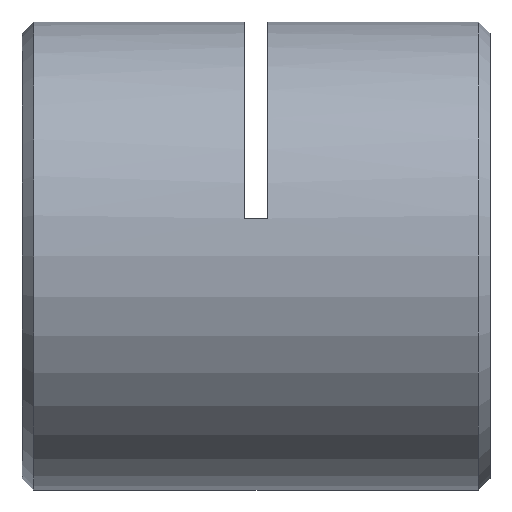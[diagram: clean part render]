
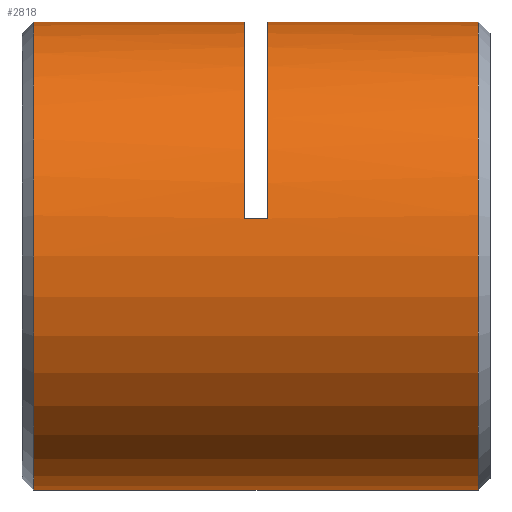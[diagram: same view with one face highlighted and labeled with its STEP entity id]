
A CAD part, left-side view. The second image highlights one B-rep face of the part: STEP entity #2818.
In plain terms, the highlighted cylindrical face has radius 8 mm (diameter 16 mm), a partial arc.
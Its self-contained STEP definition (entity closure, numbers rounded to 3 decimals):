
#15 = LINE ( 'NONE', #3690, #2148 ) ;
#53 = DIRECTION ( 'NONE',  ( 0., 1., 0. ) ) ;
#59 = FACE_OUTER_BOUND ( 'NONE', #3388, .T. ) ;
#77 = ORIENTED_EDGE ( 'NONE', *, *, #2141, .F. ) ;
#161 = DIRECTION ( 'NONE',  ( 0., 1., 0. ) ) ;
#178 = VERTEX_POINT ( 'NONE', #1547 ) ;
#325 = AXIS2_PLACEMENT_3D ( 'NONE', #1409, #161, #3832 ) ;
#407 = LINE ( 'NONE', #2979, #2992 ) ;
#486 = CARTESIAN_POINT ( 'NONE',  ( 0., 15.85, -8. ) ) ;
#737 = CARTESIAN_POINT ( 'NONE',  ( 0., 7.85, 8. ) ) ;
#881 = EDGE_CURVE ( 'NONE', #3852, #3845, #3083, .T. ) ;
#933 = DIRECTION ( 'NONE',  ( 0., 0., 1. ) ) ;
#951 = DIRECTION ( 'NONE',  ( 0., -1., 0. ) ) ;
#1100 = AXIS2_PLACEMENT_3D ( 'NONE', #3841, #2352, #3557 ) ;
#1155 = CIRCLE ( 'NONE', #2397, 8. ) ;
#1257 = VECTOR ( 'NONE', #53, 1000. ) ;
#1284 = VERTEX_POINT ( 'NONE', #2553 ) ;
#1409 = CARTESIAN_POINT ( 'NONE',  ( 0., 7.85, 0. ) ) ;
#1411 = CARTESIAN_POINT ( 'NONE',  ( 0., 0.65, 8. ) ) ;
#1418 = VERTEX_POINT ( 'NONE', #3912 ) ;
#1486 = CIRCLE ( 'NONE', #3014, 8. ) ;
#1547 = CARTESIAN_POINT ( 'NONE',  ( 0., 15.85, 8. ) ) ;
#1554 = EDGE_CURVE ( 'NONE', #1284, #178, #3215, .T. ) ;
#1575 = DIRECTION ( 'NONE',  ( 0., 1., 0. ) ) ;
#1777 = DIRECTION ( 'NONE',  ( 0., 1., 0. ) ) ;
#1891 = DIRECTION ( 'NONE',  ( 0., 1., 0. ) ) ;
#2096 = ORIENTED_EDGE ( 'NONE', *, *, #881, .T. ) ;
#2141 = EDGE_CURVE ( 'NONE', #1418, #3797, #407, .T. ) ;
#2148 = VECTOR ( 'NONE', #1575, 1000. ) ;
#2180 = DIRECTION ( 'NONE',  ( 0., 0., -1. ) ) ;
#2286 = ORIENTED_EDGE ( 'NONE', *, *, #2326, .T. ) ;
#2326 = EDGE_CURVE ( 'NONE', #3319, #2792, #15, .T. ) ;
#2352 = DIRECTION ( 'NONE',  ( 0., 1., 0. ) ) ;
#2373 = CYLINDRICAL_SURFACE ( 'NONE', #1100, 8. ) ;
#2391 = EDGE_CURVE ( 'NONE', #3319, #3845, #3634, .T. ) ;
#2397 = AXIS2_PLACEMENT_3D ( 'NONE', #3081, #2778, #933 ) ;
#2463 = CARTESIAN_POINT ( 'NONE',  ( 0., 15.85, 0. ) ) ;
#2553 = CARTESIAN_POINT ( 'NONE',  ( 0., 8.65, 8. ) ) ;
#2676 = CARTESIAN_POINT ( 'NONE',  ( -7.897, 8.65, 1.28 ) ) ;
#2688 = DIRECTION ( 'NONE',  ( 0., 0., 1. ) ) ;
#2778 = DIRECTION ( 'NONE',  ( 0., 1., 0. ) ) ;
#2792 = VERTEX_POINT ( 'NONE', #2676 ) ;
#2818 = ADVANCED_FACE ( 'NONE', ( #59 ), #2373, .T. ) ;
#2834 = EDGE_CURVE ( 'NONE', #1418, #3852, #1486, .T. ) ;
#2904 = ORIENTED_EDGE ( 'NONE', *, *, #3330, .T. ) ;
#2909 = ORIENTED_EDGE ( 'NONE', *, *, #2391, .F. ) ;
#2956 = CARTESIAN_POINT ( 'NONE',  ( 0., 0.65, 0. ) ) ;
#2979 = CARTESIAN_POINT ( 'NONE',  ( 0., 0.25, -8. ) ) ;
#2992 = VECTOR ( 'NONE', #3588, 1000. ) ;
#3014 = AXIS2_PLACEMENT_3D ( 'NONE', #2956, #1777, #2688 ) ;
#3081 = CARTESIAN_POINT ( 'NONE',  ( 0., 8.65, 0. ) ) ;
#3083 = LINE ( 'NONE', #3424, #3699 ) ;
#3213 = CIRCLE ( 'NONE', #3580, 8. ) ;
#3215 = LINE ( 'NONE', #3701, #1257 ) ;
#3319 = VERTEX_POINT ( 'NONE', #3401 ) ;
#3330 = EDGE_CURVE ( 'NONE', #178, #3797, #3213, .T. ) ;
#3388 = EDGE_LOOP ( 'NONE', ( #77, #3476, #2096, #2909, #2286, #3736, #3497, #2904 ) ) ;
#3401 = CARTESIAN_POINT ( 'NONE',  ( -7.897, 7.85, 1.28 ) ) ;
#3424 = CARTESIAN_POINT ( 'NONE',  ( 0., 0.25, 8. ) ) ;
#3476 = ORIENTED_EDGE ( 'NONE', *, *, #2834, .T. ) ;
#3497 = ORIENTED_EDGE ( 'NONE', *, *, #1554, .T. ) ;
#3557 = DIRECTION ( 'NONE',  ( 0., 0., 1. ) ) ;
#3580 = AXIS2_PLACEMENT_3D ( 'NONE', #2463, #951, #2180 ) ;
#3588 = DIRECTION ( 'NONE',  ( 0., 1., 0. ) ) ;
#3634 = CIRCLE ( 'NONE', #325, 8. ) ;
#3668 = EDGE_CURVE ( 'NONE', #2792, #1284, #1155, .T. ) ;
#3690 = CARTESIAN_POINT ( 'NONE',  ( -7.897, 8.25, 1.28 ) ) ;
#3699 = VECTOR ( 'NONE', #1891, 1000. ) ;
#3701 = CARTESIAN_POINT ( 'NONE',  ( 0., 0.25, 8. ) ) ;
#3736 = ORIENTED_EDGE ( 'NONE', *, *, #3668, .T. ) ;
#3797 = VERTEX_POINT ( 'NONE', #486 ) ;
#3832 = DIRECTION ( 'NONE',  ( 0., 0., 1. ) ) ;
#3841 = CARTESIAN_POINT ( 'NONE',  ( 0., 0.25, 0. ) ) ;
#3845 = VERTEX_POINT ( 'NONE', #737 ) ;
#3852 = VERTEX_POINT ( 'NONE', #1411 ) ;
#3912 = CARTESIAN_POINT ( 'NONE',  ( 0., 0.65, -8. ) ) ;
